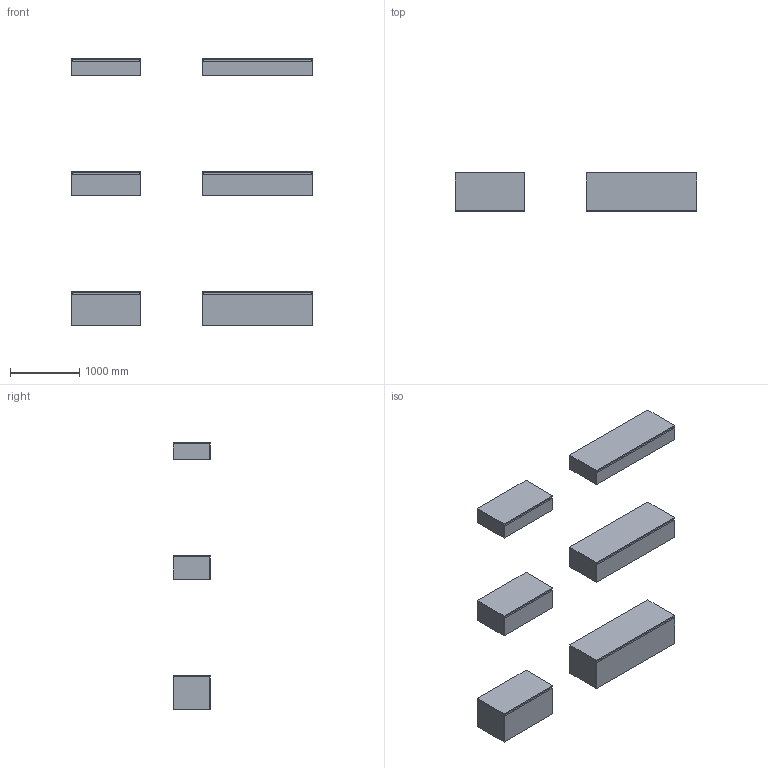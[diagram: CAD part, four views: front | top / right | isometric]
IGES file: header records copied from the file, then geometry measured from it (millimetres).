
Global section: file name: \\Archi-NAS\Comune\X GIOVANNI\MOBILI\EMOTION\EMOTION_1.igs; native system: Rhinoceros ( Feb 23 2021 ); preprocessor: Trout Lake IGES 012 Feb 23 2021; date: 230608.071340; units: millimetre
Bounding box: 3494.34 x 550 x 3868.74 mm (x, y, z)
Surface area: 45630364.4 mm2 (no closed solid volume)
Topology: 0 solids, 0 shells, 510 faces, 2052 edges, 2052 vertices
Faces by surface type: bspline 510
